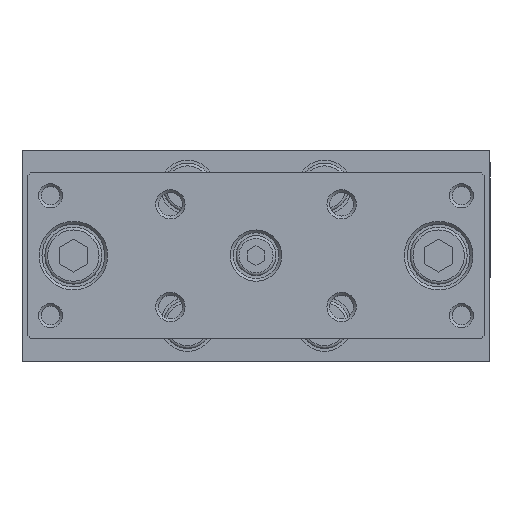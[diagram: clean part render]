
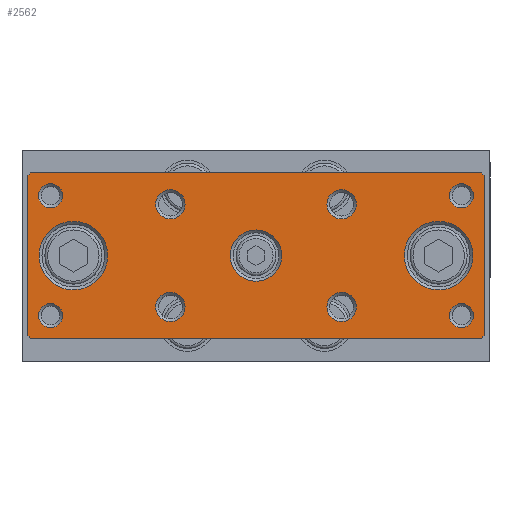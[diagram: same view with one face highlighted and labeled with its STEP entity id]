
A CAD part, top view. The second image highlights one B-rep face of the part: STEP entity #2562.
In plain terms, the highlighted planar face has unit normal (0, 0, 1).
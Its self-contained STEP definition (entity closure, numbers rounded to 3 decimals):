
#2366=CARTESIAN_POINT('',(-12.193,-7.317,114.5));
#2367=VERTEX_POINT('',#2366);
#2368=CARTESIAN_POINT('',(-14.76,-7.317,114.5));
#2369=DIRECTION('',(0.0,0.0,1.0));
#2370=DIRECTION('',(-1.0,0.0,0.0));
#2371=AXIS2_PLACEMENT_3D('',#2368,#2369,#2370);
#2372=CIRCLE('',#2371,2.567);
#2373=EDGE_CURVE('',#2367,#2367,#2372,.T.);
#2378=CARTESIAN_POINT('',(-39.76,1.683,114.5));
#2379=DIRECTION('',(0.0,0.0,1.0));
#2380=DIRECTION('',(1.0,0.0,0.0));
#2381=AXIS2_PLACEMENT_3D('',#2378,#2379,#2380);
#2382=PLANE('',#2381);
#2383=CARTESIAN_POINT('',(-39.76,15.683,114.5));
#2384=VERTEX_POINT('',#2383);
#2385=CARTESIAN_POINT('',(-39.26,16.183,114.5));
#2386=VERTEX_POINT('',#2385);
#2387=CARTESIAN_POINT('',(-39.76,15.683,114.5));
#2388=DIRECTION('',(0.707,0.707,0.0));
#2389=VECTOR('',#2388,0.707);
#2390=LINE('',#2387,#2389);
#2391=EDGE_CURVE('',#2384,#2386,#2390,.T.);
#2392=ORIENTED_EDGE('',*,*,#2391,.F.);
#2393=CARTESIAN_POINT('',(-39.76,-12.317,114.5));
#2394=VERTEX_POINT('',#2393);
#2395=CARTESIAN_POINT('',(-39.76,15.683,114.5));
#2396=DIRECTION('',(0.0,-1.0,0.0));
#2397=VECTOR('',#2396,28.);
#2398=LINE('',#2395,#2397);
#2399=EDGE_CURVE('',#2384,#2394,#2398,.T.);
#2400=ORIENTED_EDGE('',*,*,#2399,.T.);
#2401=CARTESIAN_POINT('',(-39.26,-12.817,114.5));
#2402=VERTEX_POINT('',#2401);
#2403=CARTESIAN_POINT('',(-39.26,-12.817,114.5));
#2404=DIRECTION('',(-0.707,0.707,0.0));
#2405=VECTOR('',#2404,0.707);
#2406=LINE('',#2403,#2405);
#2407=EDGE_CURVE('',#2402,#2394,#2406,.T.);
#2408=ORIENTED_EDGE('',*,*,#2407,.F.);
#2409=CARTESIAN_POINT('',(39.74,-12.817,114.5));
#2410=VERTEX_POINT('',#2409);
#2411=CARTESIAN_POINT('',(-39.26,-12.817,114.5));
#2412=DIRECTION('',(1.0,0.0,0.0));
#2413=VECTOR('',#2412,79.);
#2414=LINE('',#2411,#2413);
#2415=EDGE_CURVE('',#2402,#2410,#2414,.T.);
#2416=ORIENTED_EDGE('',*,*,#2415,.T.);
#2417=CARTESIAN_POINT('',(40.24,-12.317,114.5));
#2418=VERTEX_POINT('',#2417);
#2419=CARTESIAN_POINT('',(40.24,-12.317,114.5));
#2420=DIRECTION('',(-0.707,-0.707,0.0));
#2421=VECTOR('',#2420,0.707);
#2422=LINE('',#2419,#2421);
#2423=EDGE_CURVE('',#2418,#2410,#2422,.T.);
#2424=ORIENTED_EDGE('',*,*,#2423,.F.);
#2425=CARTESIAN_POINT('',(40.24,15.683,114.5));
#2426=VERTEX_POINT('',#2425);
#2427=CARTESIAN_POINT('',(40.24,-12.317,114.5));
#2428=DIRECTION('',(0.0,1.0,0.0));
#2429=VECTOR('',#2428,28.);
#2430=LINE('',#2427,#2429);
#2431=EDGE_CURVE('',#2418,#2426,#2430,.T.);
#2432=ORIENTED_EDGE('',*,*,#2431,.T.);
#2433=CARTESIAN_POINT('',(39.74,16.183,114.5));
#2434=VERTEX_POINT('',#2433);
#2435=CARTESIAN_POINT('',(39.74,16.183,114.5));
#2436=DIRECTION('',(0.707,-0.707,0.0));
#2437=VECTOR('',#2436,0.707);
#2438=LINE('',#2435,#2437);
#2439=EDGE_CURVE('',#2434,#2426,#2438,.T.);
#2440=ORIENTED_EDGE('',*,*,#2439,.F.);
#2441=CARTESIAN_POINT('',(39.74,16.183,114.5));
#2442=DIRECTION('',(-1.0,0.0,0.0));
#2443=VECTOR('',#2442,79.);
#2444=LINE('',#2441,#2443);
#2445=EDGE_CURVE('',#2434,#2386,#2444,.T.);
#2446=ORIENTED_EDGE('',*,*,#2445,.T.);
#2447=EDGE_LOOP('',(#2392,#2400,#2408,#2416,#2424,#2432,#2440,#2446));
#2448=FACE_OUTER_BOUND('',#2447,.T.);
#2449=CARTESIAN_POINT('',(17.807,10.683,114.5));
#2450=VERTEX_POINT('',#2449);
#2451=CARTESIAN_POINT('',(15.24,10.683,114.5));
#2452=DIRECTION('',(0.0,0.0,1.0));
#2453=DIRECTION('',(-1.0,0.0,0.0));
#2454=AXIS2_PLACEMENT_3D('',#2451,#2452,#2453);
#2455=CIRCLE('',#2454,2.567);
#2456=EDGE_CURVE('',#2450,#2450,#2455,.T.);
#2457=ORIENTED_EDGE('',*,*,#2456,.F.);
#2458=EDGE_LOOP('',(#2457));
#2459=FACE_BOUND('',#2458,.T.);
#2460=CARTESIAN_POINT('',(-12.193,10.683,114.5));
#2461=VERTEX_POINT('',#2460);
#2462=CARTESIAN_POINT('',(-14.76,10.683,114.5));
#2463=DIRECTION('',(0.0,0.0,1.0));
#2464=DIRECTION('',(-1.0,0.0,0.0));
#2465=AXIS2_PLACEMENT_3D('',#2462,#2463,#2464);
#2466=CIRCLE('',#2465,2.567);
#2467=EDGE_CURVE('',#2461,#2461,#2466,.T.);
#2468=ORIENTED_EDGE('',*,*,#2467,.F.);
#2469=EDGE_LOOP('',(#2468));
#2470=FACE_BOUND('',#2469,.T.);
#2471=CARTESIAN_POINT('',(4.74,1.683,114.5));
#2472=VERTEX_POINT('',#2471);
#2473=CARTESIAN_POINT('',(0.24,1.683,114.5));
#2474=DIRECTION('',(0.0,0.0,1.0));
#2475=DIRECTION('',(-1.0,0.0,0.0));
#2476=AXIS2_PLACEMENT_3D('',#2473,#2474,#2475);
#2477=CIRCLE('',#2476,4.5);
#2478=EDGE_CURVE('',#2472,#2472,#2477,.T.);
#2479=ORIENTED_EDGE('',*,*,#2478,.F.);
#2480=EDGE_LOOP('',(#2479));
#2481=FACE_BOUND('',#2480,.T.);
#2482=CARTESIAN_POINT('',(-25.76,1.683,114.5));
#2483=VERTEX_POINT('',#2482);
#2484=CARTESIAN_POINT('',(-31.76,1.683,114.5));
#2485=DIRECTION('',(0.0,0.0,1.0));
#2486=DIRECTION('',(-1.0,0.0,0.0));
#2487=AXIS2_PLACEMENT_3D('',#2484,#2485,#2486);
#2488=CIRCLE('',#2487,6.);
#2489=EDGE_CURVE('',#2483,#2483,#2488,.T.);
#2490=ORIENTED_EDGE('',*,*,#2489,.F.);
#2491=EDGE_LOOP('',(#2490));
#2492=FACE_BOUND('',#2491,.T.);
#2493=CARTESIAN_POINT('',(38.24,1.683,114.5));
#2494=VERTEX_POINT('',#2493);
#2495=CARTESIAN_POINT('',(32.24,1.683,114.5));
#2496=DIRECTION('',(0.0,0.0,1.0));
#2497=DIRECTION('',(-1.0,0.0,0.0));
#2498=AXIS2_PLACEMENT_3D('',#2495,#2496,#2497);
#2499=CIRCLE('',#2498,6.);
#2500=EDGE_CURVE('',#2494,#2494,#2499,.T.);
#2501=ORIENTED_EDGE('',*,*,#2500,.F.);
#2502=EDGE_LOOP('',(#2501));
#2503=FACE_BOUND('',#2502,.T.);
#2504=CARTESIAN_POINT('',(38.361,-8.817,114.5));
#2505=VERTEX_POINT('',#2504);
#2506=CARTESIAN_POINT('',(36.24,-8.817,114.5));
#2507=DIRECTION('',(0.0,0.0,1.0));
#2508=DIRECTION('',(-1.0,0.0,0.0));
#2509=AXIS2_PLACEMENT_3D('',#2506,#2507,#2508);
#2510=CIRCLE('',#2509,2.121);
#2511=EDGE_CURVE('',#2505,#2505,#2510,.T.);
#2512=ORIENTED_EDGE('',*,*,#2511,.F.);
#2513=EDGE_LOOP('',(#2512));
#2514=FACE_BOUND('',#2513,.T.);
#2515=CARTESIAN_POINT('',(38.361,12.183,114.5));
#2516=VERTEX_POINT('',#2515);
#2517=CARTESIAN_POINT('',(36.24,12.183,114.5));
#2518=DIRECTION('',(0.0,0.0,1.0));
#2519=DIRECTION('',(-1.0,0.0,0.0));
#2520=AXIS2_PLACEMENT_3D('',#2517,#2518,#2519);
#2521=CIRCLE('',#2520,2.121);
#2522=EDGE_CURVE('',#2516,#2516,#2521,.T.);
#2523=ORIENTED_EDGE('',*,*,#2522,.F.);
#2524=EDGE_LOOP('',(#2523));
#2525=FACE_BOUND('',#2524,.T.);
#2526=CARTESIAN_POINT('',(-33.639,-8.817,114.5));
#2527=VERTEX_POINT('',#2526);
#2528=CARTESIAN_POINT('',(-35.76,-8.817,114.5));
#2529=DIRECTION('',(0.0,0.0,1.0));
#2530=DIRECTION('',(-1.0,0.0,0.0));
#2531=AXIS2_PLACEMENT_3D('',#2528,#2529,#2530);
#2532=CIRCLE('',#2531,2.121);
#2533=EDGE_CURVE('',#2527,#2527,#2532,.T.);
#2534=ORIENTED_EDGE('',*,*,#2533,.F.);
#2535=EDGE_LOOP('',(#2534));
#2536=FACE_BOUND('',#2535,.T.);
#2537=CARTESIAN_POINT('',(-33.639,12.183,114.5));
#2538=VERTEX_POINT('',#2537);
#2539=CARTESIAN_POINT('',(-35.76,12.183,114.5));
#2540=DIRECTION('',(0.0,0.0,1.0));
#2541=DIRECTION('',(-1.0,0.0,0.0));
#2542=AXIS2_PLACEMENT_3D('',#2539,#2540,#2541);
#2543=CIRCLE('',#2542,2.121);
#2544=EDGE_CURVE('',#2538,#2538,#2543,.T.);
#2545=ORIENTED_EDGE('',*,*,#2544,.F.);
#2546=EDGE_LOOP('',(#2545));
#2547=FACE_BOUND('',#2546,.T.);
#2548=CARTESIAN_POINT('',(17.807,-7.317,114.5));
#2549=VERTEX_POINT('',#2548);
#2550=CARTESIAN_POINT('',(15.24,-7.317,114.5));
#2551=DIRECTION('',(0.0,0.0,1.0));
#2552=DIRECTION('',(-1.0,0.0,0.0));
#2553=AXIS2_PLACEMENT_3D('',#2550,#2551,#2552);
#2554=CIRCLE('',#2553,2.567);
#2555=EDGE_CURVE('',#2549,#2549,#2554,.T.);
#2556=ORIENTED_EDGE('',*,*,#2555,.F.);
#2557=EDGE_LOOP('',(#2556));
#2558=FACE_BOUND('',#2557,.T.);
#2559=ORIENTED_EDGE('',*,*,#2373,.F.);
#2560=EDGE_LOOP('',(#2559));
#2561=FACE_BOUND('',#2560,.T.);
#2562=ADVANCED_FACE('',(#2448,#2459,#2470,#2481,#2492,#2503,#2514,#2525,#2536,#2547,#2558,#2561),#2382,.T.);
